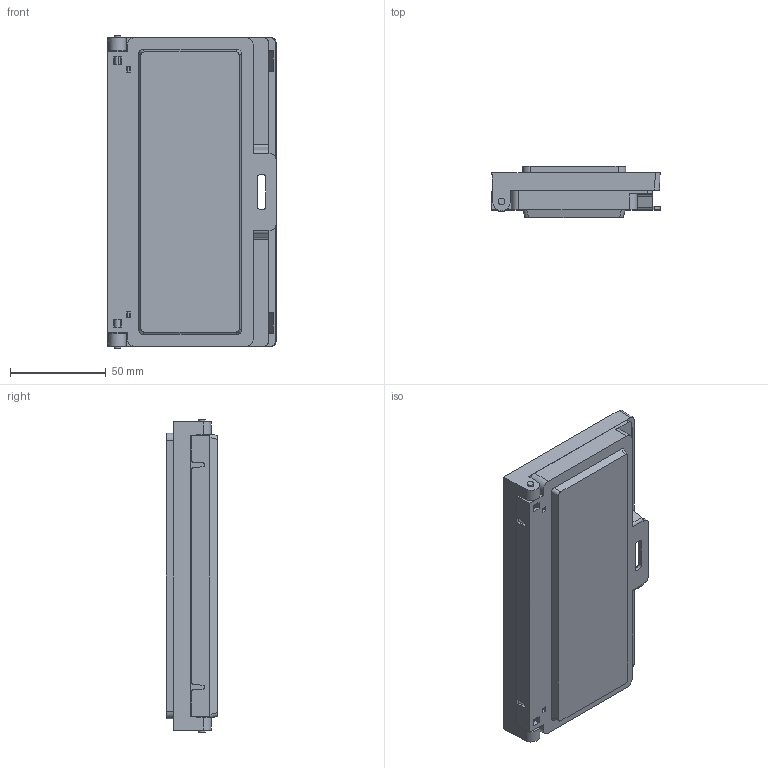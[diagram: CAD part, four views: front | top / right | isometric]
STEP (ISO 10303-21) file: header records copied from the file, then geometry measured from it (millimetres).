
FILE_DESCRIPTION (( 'STEP AP214' ), '1' );
FILE_NAME ('4.112.STEP', '2016-10-15T06:38:51', ( '' ), ( '' ), 'SwSTEP 2.0', 'SolidWorks 2015', '' );
FILE_SCHEMA (( 'AUTOMOTIVE_DESIGN' ));
Length unit declared in the file: millimetre
Products named in the file (4): 4.112.03; 4.112.01; 4.112; 4.112.02
Assembly tree (4 placements, depth 2):
  4.112
    4.112.01
    4.112.03  x2
    4.112.02
Bounding box: 88 x 26.8 x 163.4 mm (x, y, z)
Volume: 90763.8 mm3; surface area: 98243.7 mm2
Topology: 5 solids, 5 shells, 631 faces, 1802 edges, 1184 vertices
Faces by surface type: plane 384, cylinder 211, bspline 20, cone 16
Entity records: 21503 total; most frequent: CARTESIAN_POINT 4731, ORIENTED_EDGE 3568, DIRECTION 3404, EDGE_CURVE 1784, LINE 1254, VECTOR 1254, VERTEX_POINT 1172, AXIS2_PLACEMENT_3D 1075
